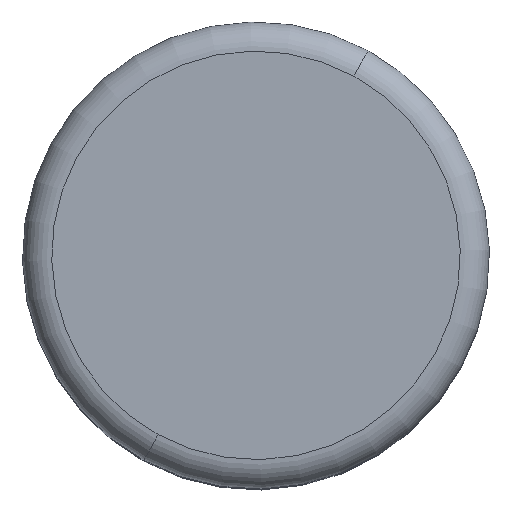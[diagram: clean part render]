
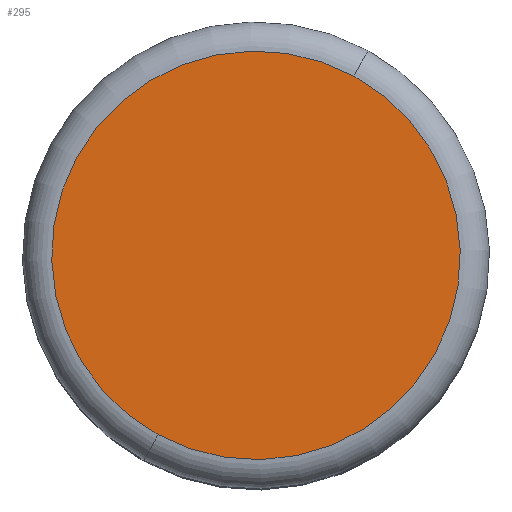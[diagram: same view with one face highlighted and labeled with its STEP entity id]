
A CAD part, top view. The second image highlights one B-rep face of the part: STEP entity #295.
In plain terms, the highlighted planar face has unit normal (0, 0, 1).
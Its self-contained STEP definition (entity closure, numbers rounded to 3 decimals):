
#242=CARTESIAN_POINT('Vertex',(6.712,12.286,50.)) ;
#245=CARTESIAN_POINT('Axis2P3D Location',(0.,0.,50.)) ;
#249=CARTESIAN_POINT('Vertex',(-6.712,-12.286,50.)) ;
#264=CARTESIAN_POINT('Axis2P3D Location',(0.,0.,50.)) ;
#286=CARTESIAN_POINT('Axis2P3D Location',(0.,14.,50.)) ;
#246=DIRECTION('Axis2P3D Direction',(0.,0.,-1.)) ;
#265=DIRECTION('Axis2P3D Direction',(0.,0.,-1.)) ;
#287=DIRECTION('Axis2P3D Direction',(0.,0.,-1.)) ;
#288=DIRECTION('Axis2P3D XDirection',(1.,0.,0.)) ;
#247=AXIS2_PLACEMENT_3D('Circle Axis2P3D',#245,#246,$) ;
#266=AXIS2_PLACEMENT_3D('Circle Axis2P3D',#264,#265,$) ;
#289=AXIS2_PLACEMENT_3D('Plane Axis2P3D',#286,#287,#288) ;
#292=ORIENTED_EDGE('',*,*,#251,.F.) ;
#293=ORIENTED_EDGE('',*,*,#268,.F.) ;
#295=ADVANCED_FACE('A519-32',(#294),#290,.F.) ;
#248=CIRCLE('generated circle',#247,14.) ;
#267=CIRCLE('generated circle',#266,14.) ;
#251=EDGE_CURVE('',#243,#250,#248,.T.) ;
#268=EDGE_CURVE('',#250,#243,#267,.T.) ;
#291=EDGE_LOOP('',(#292,#293)) ;
#294=FACE_OUTER_BOUND('',#291,.T.) ;
#290=PLANE('Plane',#289) ;
#243=VERTEX_POINT('',#242) ;
#250=VERTEX_POINT('',#249) ;
